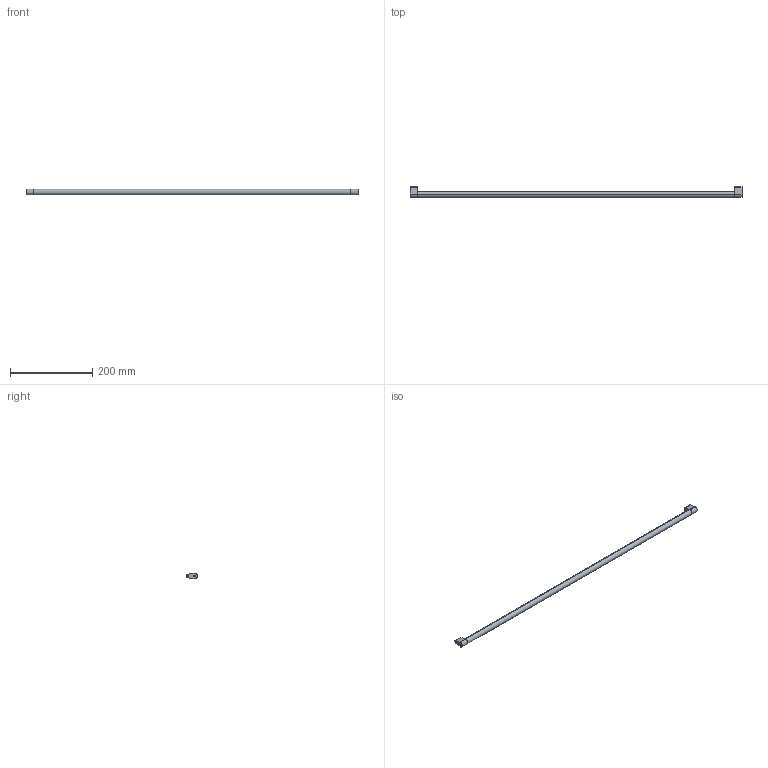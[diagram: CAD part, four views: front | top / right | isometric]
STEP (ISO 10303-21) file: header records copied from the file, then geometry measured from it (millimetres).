
FILE_DESCRIPTION (( 'STEP AP214' ), '1' );
FILE_NAME ('_Synchronisationseinheit DWD XP KAB900_S16.step', '2010-07-08T13:58:20', ( 'grass' ), ( '' ), 'SwSTEP 2.0', 'SolidWorks 2010', '' );
FILE_SCHEMA (( 'AUTOMOTIVE_DESIGN' ));
Length unit declared in the file: millimetre
Products named in the file (1): _Synchronisationseinheit DWD XP KAB900_S16
Bounding box: 807 x 26.5 x 14 mm (x, y, z)
Volume: 127914.8 mm3; surface area: 38340.7 mm2
Topology: 3 solids, 3 shells, 36 faces, 78 edges, 52 vertices
Faces by surface type: cylinder 18, plane 18
Entity records: 1050 total; most frequent: DIRECTION 188, CARTESIAN_POINT 167, ORIENTED_EDGE 156, EDGE_CURVE 78, AXIS2_PLACEMENT_3D 73, VERTEX_POINT 52, LINE 42, VECTOR 42
